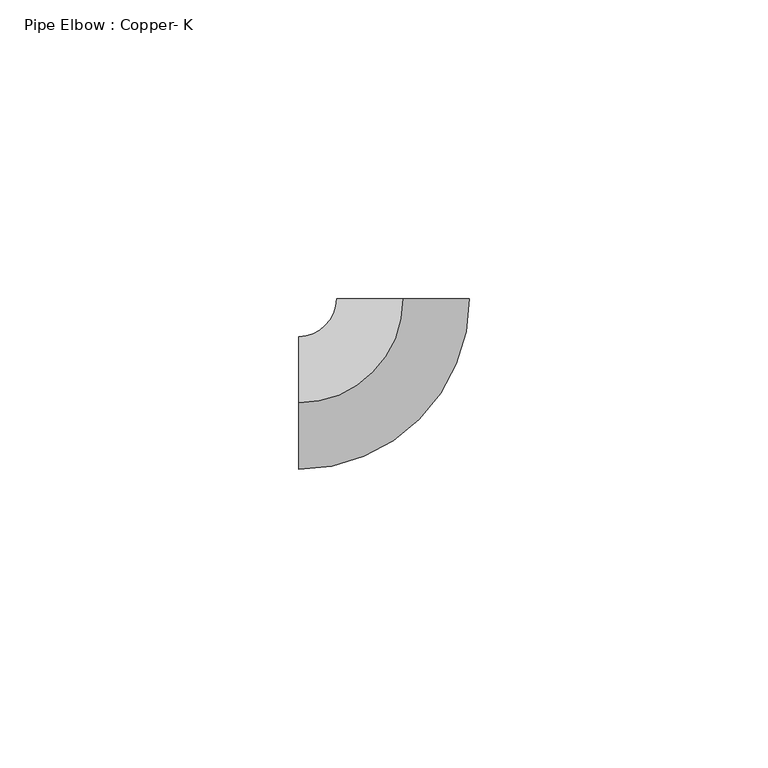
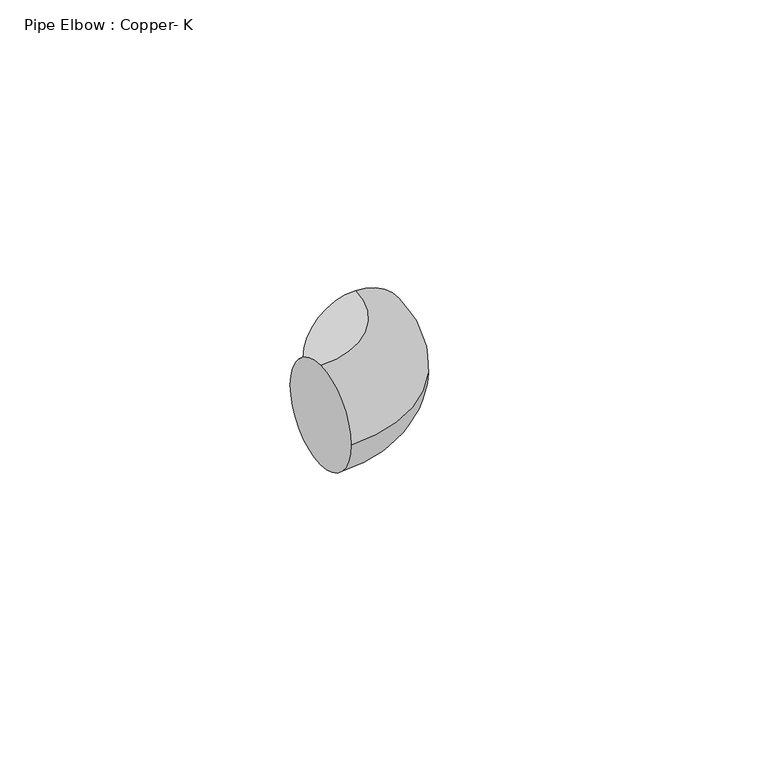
"""IFC4 building model written with IfcOpenShell, lengths in millimetres: pipe fitting geometry, Pipe Elbow : Copper- K."""

from ifc_helpers import new_model, si_unit, point, frame, origin, place, context, project, spatial, circle_curve, ellipse_curve, trimmed, source, transform, mapped, element, save
from ifc_brep_helpers import plane_surface, revolved_surface, advanced_brep


def pipe_elbow_copper_k_6db47918(model_context):
    return source(origin(), model_context, "Body", "AdvancedBrep", [
        advanced_brep(
        [(-17.4628275, 0.0, 11.1125), (-17.4628275, 11.1125, 0.0), (-17.4628275, 0.0, -11.1125), (-17.4628275, -11.1125, 0.0), (-0.0003275, 17.4628275, 11.1125), (11.1121725, 17.463036, 0.0), (-0.0003275, 17.4628275, -11.1125), (-11.1128275, 17.4626191, 0.0)],
        [
            (0, 1, circle_curve(frame((-17.4628275, 0.0, 0.0), z_axis=(-1.0, 0.0, 0.0), x_axis=(0.0, 1.0, 0.0)), 11.1125)),
            (1, 2, circle_curve(frame((-17.4628275, 0.0, 0.0), z_axis=(-1.0, 0.0, 0.0), x_axis=(0.0, 1.0, 0.0)), 11.1125)),
            (2, 3, circle_curve(frame((-17.4628275, 0.0, 0.0), z_axis=(-1.0, 0.0, 0.0), x_axis=(0.0, 1.0, 0.0)), 11.1125)),
            (3, 0, circle_curve(frame((-17.4628275, 0.0, 0.0), z_axis=(-1.0, 0.0, 0.0), x_axis=(0.0, 1.0, 0.0)), 11.1125)),
            (4, 5, circle_curve(frame((-0.0003275, 17.4628275, 0.0), z_axis=(-1.8756397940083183e-05, 0.9999999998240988, 0.0), x_axis=(-0.9999999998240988, -1.8756397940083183e-05, 0.0)), 11.1125)),
            (5, 6, circle_curve(frame((-0.0003275, 17.4628275, 0.0), z_axis=(-1.8756397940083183e-05, 0.9999999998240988, 0.0), x_axis=(-0.9999999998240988, -1.8756397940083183e-05, 0.0)), 11.1125)),
            (6, 7, circle_curve(frame((-0.0003275, 17.4628275, 0.0), z_axis=(-1.8756397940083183e-05, 0.9999999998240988, 0.0), x_axis=(-0.9999999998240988, -1.8756397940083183e-05, 0.0)), 11.1125)),
            (7, 4, circle_curve(frame((-0.0003275, 17.4628275, 0.0), z_axis=(-1.8756397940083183e-05, 0.9999999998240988, 0.0), x_axis=(-0.9999999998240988, -1.8756397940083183e-05, 0.0)), 11.1125)),
            (7, 1, circle_curve(frame((-17.4628275, 17.4625, 0.0), z_axis=(0.0, 0.0, -1.0), x_axis=(0.0, -1.0, 0.0)), 6.35)),
            (0, 4, circle_curve(frame((-17.4628275, 17.4625, 11.1125), z_axis=(0.0, 0.0, 1.0), x_axis=(0.0, -1.0, 0.0)), 17.4625)),
            (6, 2, circle_curve(frame((-17.4628275, 17.4625, -11.1125), z_axis=(0.0, 0.0, -1.0), x_axis=(0.0, -1.0, 0.0)), 17.4625)),
            (5, 3, circle_curve(frame((-17.4628275, 17.4625, 0.0), z_axis=(0.0, 0.0, -1.0), x_axis=(0.0, -1.0, 0.0)), 28.575)),
        ],
        [
            plane_surface(frame((-17.4628275, 0.0, 0.0), z_axis=(-1.0, 0.0, 0.0), x_axis=(0.0, 0.0, 1.0))),
            plane_surface(frame((-0.0003275, 17.4628275, 0.0), z_axis=(-1.875639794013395e-05, 0.9999999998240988, 0.0), x_axis=(0.0, 0.0, 1.0))),
            revolved_surface(trimmed(ellipse_curve(frame((-17.4628275, 0.0, 0.0), z_axis=(-1.0, 0.0, 0.0), x_axis=(0.0, 1.0, 0.0)), 11.1125, 11.1125), [point((-17.4628275, 0.0, 11.1125))], [point((-17.4628275, 11.1125, 0.0))], True, "CARTESIAN"), (-17.4628275, 17.4625, 0.0), (0.0, 0.0, 1.0)),
            revolved_surface(trimmed(ellipse_curve(frame((-17.4628275, 0.0, 0.0), z_axis=(-1.0, 0.0, 0.0), x_axis=(0.0, 1.0, 0.0)), 11.1125, 11.1125), [point((-17.4628275, 11.1125, 0.0))], [point((-17.4628275, 0.0, -11.1125))], True, "CARTESIAN"), (-17.4628275, 17.4625, 0.0), (0.0, 0.0, 1.0)),
            revolved_surface(trimmed(ellipse_curve(frame((-17.4628275, 0.0, 0.0), z_axis=(-1.0, 0.0, 0.0), x_axis=(0.0, 1.0, 0.0)), 11.1125, 11.1125), [point((-17.4628275, 0.0, -11.1125))], [point((-17.4628275, -11.1125, 0.0))], True, "CARTESIAN"), (-17.4628275, 17.4625, 0.0), (0.0, 0.0, 1.0)),
            revolved_surface(trimmed(ellipse_curve(frame((-17.4628275, 0.0, 0.0), z_axis=(-1.0, 0.0, 0.0), x_axis=(0.0, 1.0, 0.0)), 11.1125, 11.1125), [point((-17.4628275, -11.1125, 0.0))], [point((-17.4628275, 0.0, 11.1125))], True, "CARTESIAN"), (-17.4628275, 17.4625, 0.0), (0.0, 0.0, 1.0)),
        ],
        [
            (0, [[1, 2, 3, 4]]),
            (1, [[5, 6, 7, 8]]),
            (2, [[9, -1, 10, -8]]),
            (3, [[11, -2, -9, -7]]),
            (4, [[12, -3, -11, -6]]),
            (5, [[-10, -4, -12, -5]]),
        ],
    ),
        advanced_brep(
        [(-17.4628275, 0.0, 11.1125), (-17.4628275, 11.1125, 0.0), (-17.4628275, 0.0, -11.1125), (-17.4628275, -11.1125, 0.0), (-0.0003275, 17.4628275, 11.1125), (11.1121725, 17.463036, 0.0), (-0.0003275, 17.4628275, -11.1125), (-11.1128275, 17.4626191, 0.0)],
        [
            (0, 1, circle_curve(frame((-17.4628275, 0.0, 0.0), z_axis=(-1.0, 0.0, 0.0), x_axis=(0.0, 1.0, 0.0)), 11.1125)),
            (1, 2, circle_curve(frame((-17.4628275, 0.0, 0.0), z_axis=(-1.0, 0.0, 0.0), x_axis=(0.0, 1.0, 0.0)), 11.1125)),
            (2, 3, circle_curve(frame((-17.4628275, 0.0, 0.0), z_axis=(-1.0, 0.0, 0.0), x_axis=(0.0, 1.0, 0.0)), 11.1125)),
            (3, 0, circle_curve(frame((-17.4628275, 0.0, 0.0), z_axis=(-1.0, 0.0, 0.0), x_axis=(0.0, 1.0, 0.0)), 11.1125)),
            (4, 5, circle_curve(frame((-0.0003275, 17.4628275, 0.0), z_axis=(-1.8756397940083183e-05, 0.9999999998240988, 0.0), x_axis=(-0.9999999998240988, -1.8756397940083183e-05, 0.0)), 11.1125)),
            (5, 6, circle_curve(frame((-0.0003275, 17.4628275, 0.0), z_axis=(-1.8756397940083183e-05, 0.9999999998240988, 0.0), x_axis=(-0.9999999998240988, -1.8756397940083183e-05, 0.0)), 11.1125)),
            (6, 7, circle_curve(frame((-0.0003275, 17.4628275, 0.0), z_axis=(-1.8756397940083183e-05, 0.9999999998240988, 0.0), x_axis=(-0.9999999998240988, -1.8756397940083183e-05, 0.0)), 11.1125)),
            (7, 4, circle_curve(frame((-0.0003275, 17.4628275, 0.0), z_axis=(-1.8756397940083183e-05, 0.9999999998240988, 0.0), x_axis=(-0.9999999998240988, -1.8756397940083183e-05, 0.0)), 11.1125)),
            (7, 1, circle_curve(frame((-17.4628275, 17.4625, 0.0), z_axis=(0.0, 0.0, -1.0), x_axis=(0.0, -1.0, 0.0)), 6.35)),
            (0, 4, circle_curve(frame((-17.4628275, 17.4625, 11.1125), z_axis=(0.0, 0.0, 1.0), x_axis=(0.0, -1.0, 0.0)), 17.4625)),
            (6, 2, circle_curve(frame((-17.4628275, 17.4625, -11.1125), z_axis=(0.0, 0.0, -1.0), x_axis=(0.0, -1.0, 0.0)), 17.4625)),
            (5, 3, circle_curve(frame((-17.4628275, 17.4625, 0.0), z_axis=(0.0, 0.0, -1.0), x_axis=(0.0, -1.0, 0.0)), 28.575)),
        ],
        [
            plane_surface(frame((-17.4628275, 0.0, 0.0), z_axis=(-1.0, 0.0, 0.0), x_axis=(0.0, 0.0, 1.0))),
            plane_surface(frame((-0.0003275, 17.4628275, 0.0), z_axis=(-1.875639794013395e-05, 0.9999999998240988, 0.0), x_axis=(0.0, 0.0, 1.0))),
            revolved_surface(trimmed(ellipse_curve(frame((-17.4628275, 0.0, 0.0), z_axis=(-1.0, 0.0, 0.0), x_axis=(0.0, 1.0, 0.0)), 11.1125, 11.1125), [point((-17.4628275, 0.0, 11.1125))], [point((-17.4628275, 11.1125, 0.0))], True, "CARTESIAN"), (-17.4628275, 17.4625, 0.0), (0.0, 0.0, 1.0)),
            revolved_surface(trimmed(ellipse_curve(frame((-17.4628275, 0.0, 0.0), z_axis=(-1.0, 0.0, 0.0), x_axis=(0.0, 1.0, 0.0)), 11.1125, 11.1125), [point((-17.4628275, 11.1125, 0.0))], [point((-17.4628275, 0.0, -11.1125))], True, "CARTESIAN"), (-17.4628275, 17.4625, 0.0), (0.0, 0.0, 1.0)),
            revolved_surface(trimmed(ellipse_curve(frame((-17.4628275, 0.0, 0.0), z_axis=(-1.0, 0.0, 0.0), x_axis=(0.0, 1.0, 0.0)), 11.1125, 11.1125), [point((-17.4628275, 0.0, -11.1125))], [point((-17.4628275, -11.1125, 0.0))], True, "CARTESIAN"), (-17.4628275, 17.4625, 0.0), (0.0, 0.0, 1.0)),
            revolved_surface(trimmed(ellipse_curve(frame((-17.4628275, 0.0, 0.0), z_axis=(-1.0, 0.0, 0.0), x_axis=(0.0, 1.0, 0.0)), 11.1125, 11.1125), [point((-17.4628275, -11.1125, 0.0))], [point((-17.4628275, 0.0, 11.1125))], True, "CARTESIAN"), (-17.4628275, 17.4625, 0.0), (0.0, 0.0, 1.0)),
        ],
        [
            (0, [[1, 2, 3, 4]]),
            (1, [[5, 6, 7, 8]]),
            (2, [[9, -1, 10, -8]]),
            (3, [[11, -2, -9, -7]]),
            (4, [[12, -3, -11, -6]]),
            (5, [[-10, -4, -12, -5]]),
        ],
    ),
    ])


if __name__ == "__main__":
    model = new_model("IFC4")
    model_context = context("Model", 3, world=origin())
    ifc_project = project(units=[si_unit("LENGTHUNIT", "METRE", prefix="MILLI")], contexts=[model_context])
    site = spatial("IfcSite", under=ifc_project)
    building = spatial("IfcBuilding", under=site)
    placement = place(None, origin())
    pipe_elbow_copper_k_shape = pipe_elbow_copper_k_6db47918(model_context)
    element("IfcPipeFitting", 1, ObjectType="Pipe Elbow : Copper- K", at=placement, inside=building, context=model_context, shape_type="MappedRepresentation", body=[
        mapped(pipe_elbow_copper_k_shape, transform((0.0, 0.0, 0.0), x_axis=(1.0, 0.0, 0.0), y_axis=(0.0, 1.0, 0.0), z_axis=(0.0, 0.0, 1.0))),
    ])
    save(model, "model.ifc")
